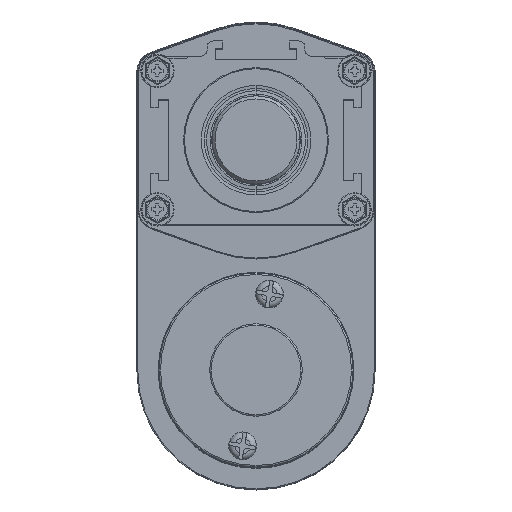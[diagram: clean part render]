
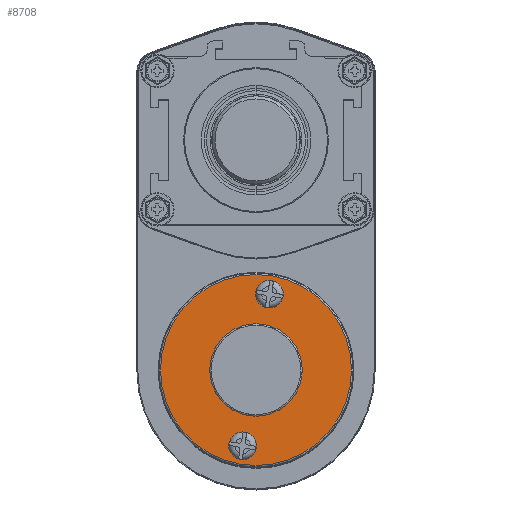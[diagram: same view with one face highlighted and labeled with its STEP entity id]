
A CAD part, top view. The second image highlights one B-rep face of the part: STEP entity #8708.
In plain terms, the highlighted planar face has unit normal (0, 0, 1).
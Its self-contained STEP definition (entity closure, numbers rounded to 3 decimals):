
#222 = DIRECTION ( 'NONE',  ( -0.174, -0.985, 0. ) ) ;
#3459 = ORIENTED_EDGE ( 'NONE', *, *, #19824, .F. ) ;
#3967 = DIRECTION ( 'NONE',  ( 0., 0., 1. ) ) ;
#4567 = PLANE ( 'NONE',  #73360 ) ;
#4844 = DIRECTION ( 'NONE',  ( -0.174, -0.985, 0. ) ) ;
#6035 = CARTESIAN_POINT ( 'NONE',  ( -13.407, -21.584, 284.9 ) ) ;
#6381 = EDGE_CURVE ( 'NONE', #83117, #50883, #28829, .T. ) ;
#7615 = CARTESIAN_POINT ( 'NONE',  ( -23.132, -76.733, 284.9 ) ) ;
#8708 = ADVANCED_FACE ( 'NONE', ( #25621, #79783, #57914, #65946 ), #4567, .T. ) ;
#10421 = DIRECTION ( 'NONE',  ( 0., 0., 1. ) ) ;
#11029 = EDGE_CURVE ( 'NONE', #23381, #26831, #51084, .T. ) ;
#11877 = EDGE_CURVE ( 'NONE', #83439, #87571, #48316, .T. ) ;
#13635 = ORIENTED_EDGE ( 'NONE', *, *, #15614, .T. ) ;
#15614 = EDGE_CURVE ( 'NONE', #50883, #83117, #78511, .T. ) ;
#15908 = CARTESIAN_POINT ( 'NONE',  ( -12.626, -17.152, 284.9 ) ) ;
#19824 = EDGE_CURVE ( 'NONE', #25388, #47407, #26117, .T. ) ;
#20102 = CARTESIAN_POINT ( 'NONE',  ( -21.308, -66.393, 284.9 ) ) ;
#22010 = DIRECTION ( 'NONE',  ( -0.174, -0.985, 0. ) ) ;
#22390 = CARTESIAN_POINT ( 'NONE',  ( -17.749, -46.204, 284.9 ) ) ;
#23381 = VERTEX_POINT ( 'NONE', #83500 ) ;
#23727 = DIRECTION ( 'NONE',  ( -0.174, -0.985, 0. ) ) ;
#25388 = VERTEX_POINT ( 'NONE', #68522 ) ;
#25466 = DIRECTION ( 'NONE',  ( 0., 0., 1. ) ) ;
#25498 = CARTESIAN_POINT ( 'NONE',  ( -17.749, -46.204, 284.9 ) ) ;
#25621 = FACE_BOUND ( 'NONE', #39727, .T. ) ;
#26117 = CIRCLE ( 'NONE', #36098, 15. ) ;
#26831 = VERTEX_POINT ( 'NONE', #20102 ) ;
#28493 = EDGE_LOOP ( 'NONE', ( #34036, #3459 ) ) ;
#28811 = CARTESIAN_POINT ( 'NONE',  ( -13.407, -21.584, 284.9 ) ) ;
#28829 = CIRCLE ( 'NONE', #78857, 31. ) ;
#28878 = CARTESIAN_POINT ( 'NONE',  ( -17.749, -46.204, 284.9 ) ) ;
#29479 = CIRCLE ( 'NONE', #76601, 15. ) ;
#30101 = ORIENTED_EDGE ( 'NONE', *, *, #11877, .F. ) ;
#30440 = CARTESIAN_POINT ( 'NONE',  ( -12.365, -15.675, 284.9 ) ) ;
#31032 = CARTESIAN_POINT ( 'NONE',  ( -2.976, -48.809, 284.9 ) ) ;
#32624 = CARTESIAN_POINT ( 'NONE',  ( -20.353, -60.976, 284.9 ) ) ;
#34036 = ORIENTED_EDGE ( 'NONE', *, *, #61794, .F. ) ;
#35404 = AXIS2_PLACEMENT_3D ( 'NONE', #6035, #66956, #46819 ) ;
#36098 = AXIS2_PLACEMENT_3D ( 'NONE', #28878, #61588, #222 ) ;
#36170 = CARTESIAN_POINT ( 'NONE',  ( -14.189, -26.016, 284.9 ) ) ;
#39727 = EDGE_LOOP ( 'NONE', ( #71433, #59805 ) ) ;
#43059 = DIRECTION ( 'NONE',  ( 0., 0., 1. ) ) ;
#46235 = DIRECTION ( 'NONE',  ( -0.174, -0.985, 0. ) ) ;
#46819 = DIRECTION ( 'NONE',  ( -0.174, -0.985, 0. ) ) ;
#47407 = VERTEX_POINT ( 'NONE', #32624 ) ;
#48316 = CIRCLE ( 'NONE', #35404, 4.5 ) ;
#50883 = VERTEX_POINT ( 'NONE', #30440 ) ;
#51084 = CIRCLE ( 'NONE', #61107, 4.5 ) ;
#57914 = FACE_OUTER_BOUND ( 'NONE', #66607, .T. ) ;
#57942 = ORIENTED_EDGE ( 'NONE', *, *, #6381, .T. ) ;
#59805 = ORIENTED_EDGE ( 'NONE', *, *, #11029, .F. ) ;
#60857 = ORIENTED_EDGE ( 'NONE', *, *, #69464, .F. ) ;
#61107 = AXIS2_PLACEMENT_3D ( 'NONE', #76610, #43059, #22010 ) ;
#61588 = DIRECTION ( 'NONE',  ( 0., 0., 1. ) ) ;
#61794 = EDGE_CURVE ( 'NONE', #47407, #25388, #29479, .T. ) ;
#62404 = DIRECTION ( 'NONE',  ( 0., 0., 1. ) ) ;
#62961 = CIRCLE ( 'NONE', #77248, 4.5 ) ;
#63242 = EDGE_LOOP ( 'NONE', ( #30101, #60857 ) ) ;
#64916 = DIRECTION ( 'NONE',  ( 0., 0., 1. ) ) ;
#65946 = FACE_BOUND ( 'NONE', #28493, .T. ) ;
#66219 = CARTESIAN_POINT ( 'NONE',  ( -22.09, -70.824, 284.9 ) ) ;
#66238 = CARTESIAN_POINT ( 'NONE',  ( -17.749, -46.204, 284.9 ) ) ;
#66607 = EDGE_LOOP ( 'NONE', ( #57942, #13635 ) ) ;
#66956 = DIRECTION ( 'NONE',  ( 0., 0., 1. ) ) ;
#67377 = EDGE_CURVE ( 'NONE', #26831, #23381, #76982, .T. ) ;
#68522 = CARTESIAN_POINT ( 'NONE',  ( -15.144, -31.432, 284.9 ) ) ;
#69464 = EDGE_CURVE ( 'NONE', #87571, #83439, #62961, .T. ) ;
#71433 = ORIENTED_EDGE ( 'NONE', *, *, #67377, .F. ) ;
#71446 = AXIS2_PLACEMENT_3D ( 'NONE', #66238, #3967, #72076 ) ;
#72076 = DIRECTION ( 'NONE',  ( -0.174, -0.985, 0. ) ) ;
#72520 = DIRECTION ( 'NONE',  ( -0.174, -0.985, 0. ) ) ;
#73360 = AXIS2_PLACEMENT_3D ( 'NONE', #31032, #10421, #46235 ) ;
#76601 = AXIS2_PLACEMENT_3D ( 'NONE', #25498, #80108, #72520 ) ;
#76610 = CARTESIAN_POINT ( 'NONE',  ( -22.09, -70.824, 284.9 ) ) ;
#76982 = CIRCLE ( 'NONE', #81337, 4.5 ) ;
#77248 = AXIS2_PLACEMENT_3D ( 'NONE', #28811, #62404, #82977 ) ;
#78511 = CIRCLE ( 'NONE', #71446, 31. ) ;
#78857 = AXIS2_PLACEMENT_3D ( 'NONE', #22390, #64916, #23727 ) ;
#79783 = FACE_BOUND ( 'NONE', #63242, .T. ) ;
#80108 = DIRECTION ( 'NONE',  ( 0., 0., 1. ) ) ;
#81337 = AXIS2_PLACEMENT_3D ( 'NONE', #66219, #25466, #4844 ) ;
#82977 = DIRECTION ( 'NONE',  ( -0.174, -0.985, 0. ) ) ;
#83117 = VERTEX_POINT ( 'NONE', #7615 ) ;
#83439 = VERTEX_POINT ( 'NONE', #15908 ) ;
#83500 = CARTESIAN_POINT ( 'NONE',  ( -22.871, -75.256, 284.9 ) ) ;
#87571 = VERTEX_POINT ( 'NONE', #36170 ) ;
